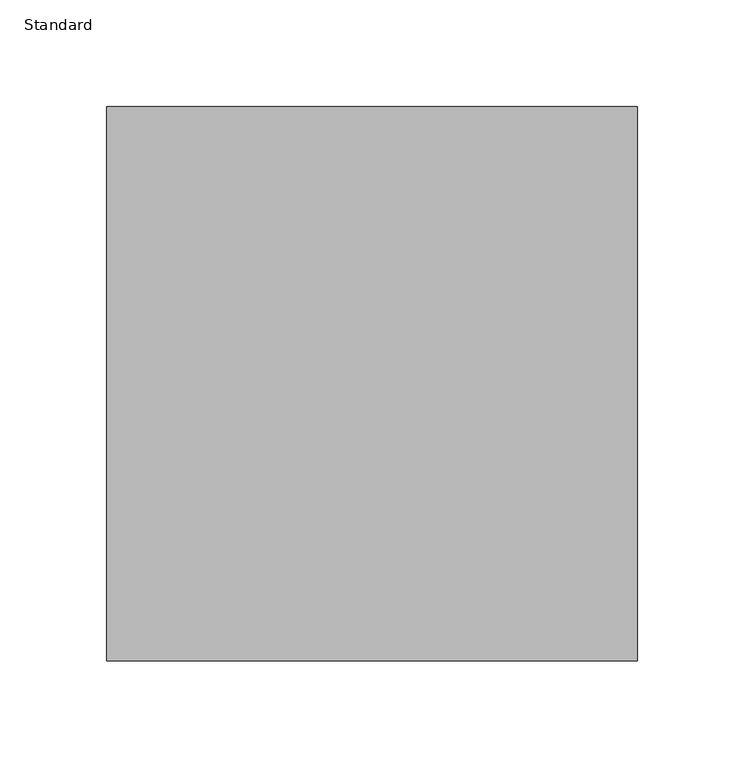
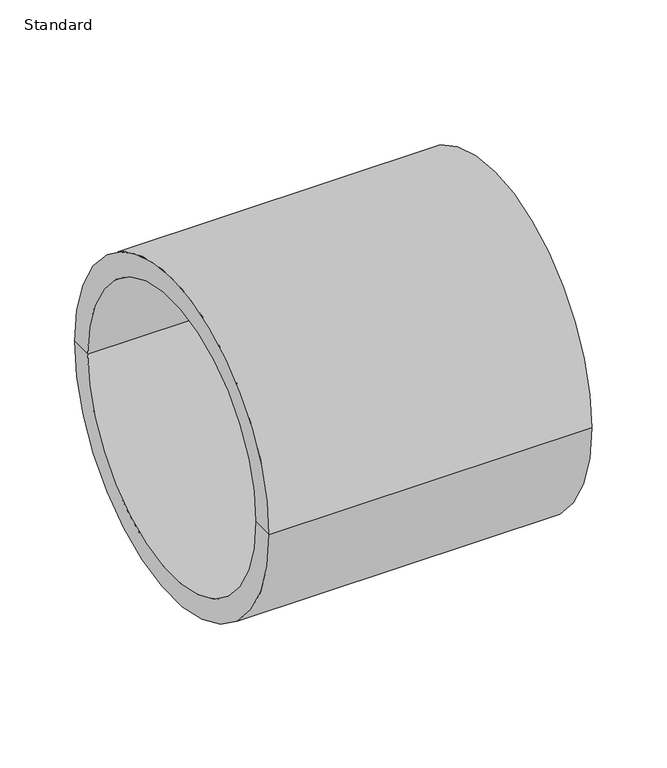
"""IFC4 building model written with IfcOpenShell, lengths in millimetres: pipe fitting geometry, Durapipe_PipeFitting_PVC_Socket : Standard."""

from ifc_helpers import new_model, si_unit, frame, origin, place, context, project, spatial, polyline, circle_curve, source, transform, mapped, element, save
from ifc_brep_helpers import plane_surface, cylinder_surface, revolved_surface, advanced_brep


def standard_b4a90c16(model_context):
    return source(origin(), model_context, "Body", "AdvancedBrep", [
        advanced_brep(
        [(-124.5, -130.0, 0.0), (-124.5, 130.0, 0.0), (124.5, 130.0, 0.0), (124.5, -130.0, 0.0), (-124.5, -112.5, 0.0), (-124.5, 112.5, 0.0), (5.5, -101.5, 0.0), (5.5, 101.5, 0.0), (-5.5, 101.5, 0.0), (-5.5, -101.5, 0.0), (124.5, 112.5, 0.0), (124.5, -112.5, 0.0), (-5.5, -112.5, 0.0), (-5.5, 112.5, 0.0), (5.5, -112.5, 0.0), (5.5, 112.5, 0.0)],
        [
            (0, 1, circle_curve(frame((-124.5, 0.0, 0.0), z_axis=(1.0, 0.0, 0.0), x_axis=(0.0, 1.0, 0.0)), 130.0)),
            (1, 2),
            (2, 3, circle_curve(frame((124.5, 0.0, 0.0), z_axis=(-1.0, 0.0, 0.0), x_axis=(0.0, 1.0, 0.0)), 130.0)),
            (3, 0),
            (1, 0, circle_curve(frame((-124.5, 0.0, 0.0), z_axis=(1.0, 0.0, 0.0), x_axis=(0.0, 1.0, 0.0)), 130.0)),
            (3, 2, circle_curve(frame((124.5, 0.0, 0.0), z_axis=(-1.0, 0.0, 0.0), x_axis=(0.0, 1.0, 0.0)), 130.0)),
            (4, 5, circle_curve(frame((-124.5, 0.0, 0.0), z_axis=(1.0, 0.0, 0.0), x_axis=(0.0, 1.0, 0.0)), 112.5)),
            (5, 1),
            (0, 4),
            (5, 4, circle_curve(frame((-124.5, 0.0, 0.0), z_axis=(1.0, 0.0, 0.0), x_axis=(0.0, 1.0, 0.0)), 112.5)),
            (6, 7, circle_curve(frame((5.5, 0.0, 0.0), z_axis=(1.0, 0.0, 0.0), x_axis=(0.0, 1.0, 0.0)), 101.5)),
            (7, 8),
            (8, 9, circle_curve(frame((-5.5, 0.0, 0.0), z_axis=(-1.0, 0.0, 0.0), x_axis=(0.0, 1.0, 0.0)), 101.5)),
            (9, 6),
            (7, 6, circle_curve(frame((5.5, 0.0, 0.0), z_axis=(1.0, 0.0, 0.0), x_axis=(0.0, 1.0, 0.0)), 101.5)),
            (9, 8, circle_curve(frame((-5.5, 0.0, 0.0), z_axis=(-1.0, 0.0, 0.0), x_axis=(0.0, 1.0, 0.0)), 101.5)),
            (2, 10),
            (10, 11, circle_curve(frame((124.5, 0.0, 0.0), z_axis=(-1.0, 0.0, 0.0), x_axis=(0.0, 1.0, 0.0)), 112.5)),
            (11, 3),
            (11, 10, circle_curve(frame((124.5, 0.0, 0.0), z_axis=(-1.0, 0.0, 0.0), x_axis=(0.0, 1.0, 0.0)), 112.5)),
            (12, 13, circle_curve(frame((-5.5, 0.0, 0.0), z_axis=(1.0, 0.0, 0.0), x_axis=(0.0, 1.0, 0.0)), 112.5)),
            (13, 5),
            (4, 12),
            (13, 12, circle_curve(frame((-5.5, 0.0, 0.0), z_axis=(1.0, 0.0, 0.0), x_axis=(0.0, 1.0, 0.0)), 112.5)),
            (8, 13),
            (12, 9),
            (14, 15, circle_curve(frame((5.5, 0.0, 0.0), z_axis=(1.0, 0.0, 0.0), x_axis=(0.0, 1.0, 0.0)), 112.5)),
            (15, 7),
            (6, 14),
            (15, 14, circle_curve(frame((5.5, 0.0, 0.0), z_axis=(1.0, 0.0, 0.0), x_axis=(0.0, 1.0, 0.0)), 112.5)),
            (10, 15),
            (14, 11),
        ],
        [
            cylinder_surface(frame((-124.5, 0.0, 0.0), z_axis=(-1.0, 0.0, 0.0), x_axis=(0.0, 1.0, 0.0)), 130.0),
            plane_surface(frame((-124.5, 0.0, 0.0), z_axis=(-1.0, 0.0, 0.0), x_axis=(0.0, 1.0, 0.0))),
            revolved_surface(polyline([(-5.5, 101.5, 0.0), (5.5, 101.5, 0.0)]), (-124.5, 0.0, 0.0), (-1.0, 0.0, 0.0)),
            plane_surface(frame((124.5, 0.0, 0.0), z_axis=(1.0, 0.0, 0.0), x_axis=(0.0, 1.0, 0.0))),
            revolved_surface(polyline([(-124.5, 112.5, 0.0), (-5.5, 112.5, 0.0)]), (-124.5, 0.0, 0.0), (-1.0, 0.0, 0.0)),
            plane_surface(frame((-5.5, 0.0, 0.0), z_axis=(-1.0, 0.0, 0.0), x_axis=(0.0, 1.0, 0.0))),
            plane_surface(frame((5.5, 0.0, 0.0), z_axis=(1.0, 0.0, 0.0), x_axis=(0.0, 1.0, 0.0))),
            revolved_surface(polyline([(5.5, 112.5, 0.0), (124.5, 112.5, 0.0)]), (-124.5, 0.0, 0.0), (-1.0, 0.0, 0.0)),
        ],
        [
            (0, [[1, 2, 3, 4]]),
            (0, [[5, -4, 6, -2]]),
            (1, [[7, 8, -1, 9]]),
            (1, [[10, -9, -5, -8]]),
            (2, [[11, 12, 13, 14]]),
            (2, [[15, -14, 16, -12]]),
            (3, [[-3, 17, 18, 19]]),
            (3, [[-6, -19, 20, -17]]),
            (4, [[21, 22, -7, 23]]),
            (4, [[24, -23, -10, -22]]),
            (5, [[-13, 25, -21, 26]]),
            (5, [[-16, -26, -24, -25]]),
            (6, [[27, 28, -11, 29]]),
            (6, [[30, -29, -15, -28]]),
            (7, [[-18, 31, -27, 32]]),
            (7, [[-20, -32, -30, -31]]),
        ],
    ),
    ])


if __name__ == "__main__":
    model = new_model("IFC4")
    model_context = context("Model", 3, world=origin())
    ifc_project = project(units=[si_unit("LENGTHUNIT", "METRE", prefix="MILLI")], contexts=[model_context])
    site = spatial("IfcSite", under=ifc_project)
    building = spatial("IfcBuilding", under=site)
    placement = place(None, origin())
    standard_shape = standard_b4a90c16(model_context)
    element("IfcPipeFitting", 1, ObjectType="Durapipe_PipeFitting_PVC_Socket : Standard", at=placement, inside=building, context=model_context, shape_type="MappedRepresentation", body=[
        mapped(standard_shape, transform((0.0, 0.0, 0.0), x_axis=(1.0, 0.0, 0.0), y_axis=(0.0, 1.0, 0.0), z_axis=(0.0, 0.0, 1.0))),
    ])
    save(model, "model.ifc")
